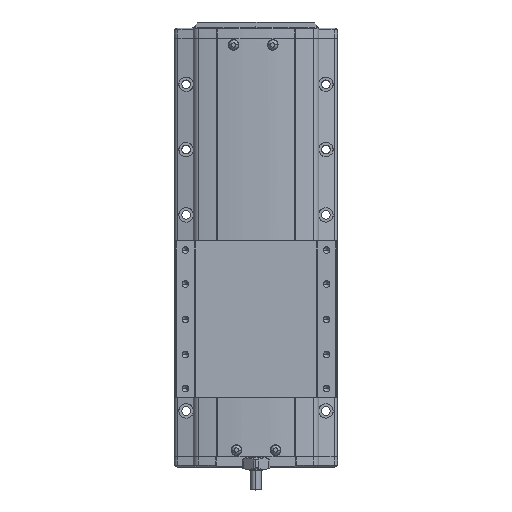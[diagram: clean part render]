
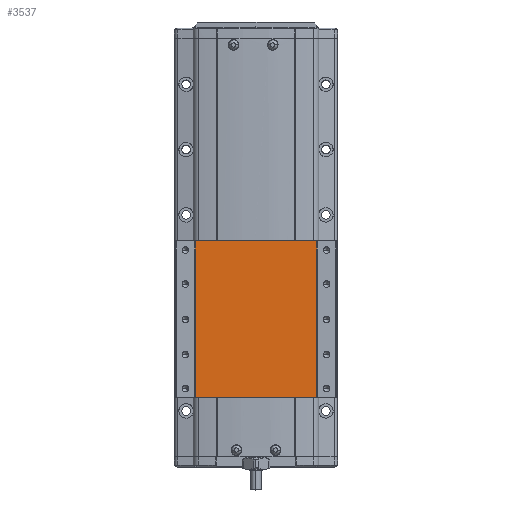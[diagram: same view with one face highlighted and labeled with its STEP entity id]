
A CAD part, top view. The second image highlights one B-rep face of the part: STEP entity #3537.
In plain terms, the highlighted planar face has unit normal (0, 0, 1).
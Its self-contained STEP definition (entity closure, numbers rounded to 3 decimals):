
#3537=ADVANCED_FACE('',(#8068),#8069,.F.);
#8068=FACE_OUTER_BOUND('',#14245,.T.);
#8069=PLANE('',#14246);
#14245=EDGE_LOOP('',(#25769,#25770,#25771,#25772));
#14246=AXIS2_PLACEMENT_3D('',#25773,#25774,#25775);
#25769=ORIENTED_EDGE('',*,*,#35312,.F.);
#25770=ORIENTED_EDGE('',*,*,#38857,.F.);
#25771=ORIENTED_EDGE('',*,*,#38858,.F.);
#25772=ORIENTED_EDGE('',*,*,#38859,.T.);
#25773=CARTESIAN_POINT('',(-300.,17.222,36.5));
#25774=DIRECTION('',(0.,0.,-1.0));
#25775=DIRECTION('',(-1.0,0.,0.));
#35312=EDGE_CURVE('',#42434,#42436,#42437,.T.);
#38857=EDGE_CURVE('',#48007,#42434,#48008,.T.);
#38858=EDGE_CURVE('',#48009,#48007,#48010,.T.);
#38859=EDGE_CURVE('',#48009,#42436,#48011,.T.);
#42434=VERTEX_POINT('',#52587);
#42436=VERTEX_POINT('',#52589);
#42437=LINE('',#52590,#52591);
#48007=VERTEX_POINT('',#60844);
#48008=LINE('',#60845,#60846);
#48009=VERTEX_POINT('',#60847);
#48010=LINE('',#60848,#60849);
#48011=LINE('',#60850,#60851);
#52587=CARTESIAN_POINT('',(-346.376,137.222,36.5));
#52589=CARTESIAN_POINT('',(-253.624,137.222,36.5));
#52590=CARTESIAN_POINT('',(-253.624,137.222,36.5));
#52591=VECTOR('',#65586,10.0);
#60844=CARTESIAN_POINT('',(-346.376,17.222,36.5));
#60845=CARTESIAN_POINT('',(-346.376,17.222,36.5));
#60846=VECTOR('',#70082,10.0);
#60847=CARTESIAN_POINT('',(-253.624,17.222,36.5));
#60848=CARTESIAN_POINT('',(-253.624,17.222,36.5));
#60849=VECTOR('',#70083,10.0);
#60850=CARTESIAN_POINT('',(-253.624,17.222,36.5));
#60851=VECTOR('',#70084,10.0);
#65586=DIRECTION('',(1.0,0.,0.));
#70082=DIRECTION('',(0.,1.0,0.));
#70083=DIRECTION('',(-1.0,0.,0.));
#70084=DIRECTION('',(0.,1.0,0.));
